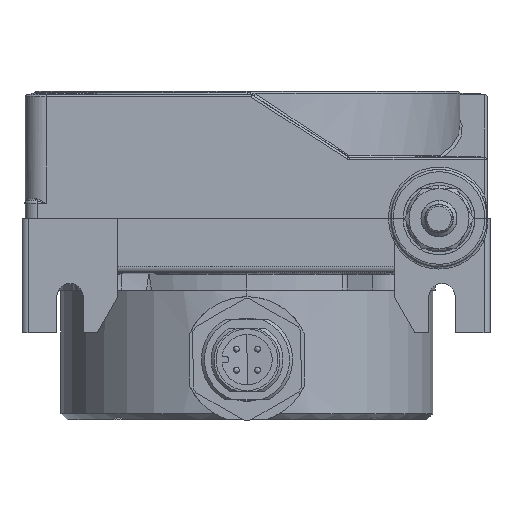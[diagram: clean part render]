
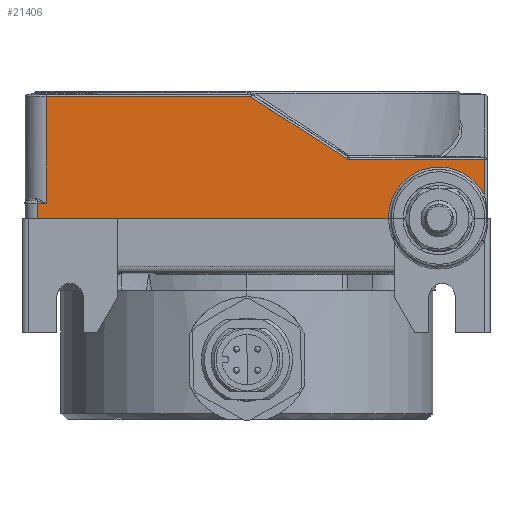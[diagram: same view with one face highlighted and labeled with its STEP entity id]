
A CAD part, left-side view. The second image highlights one B-rep face of the part: STEP entity #21406.
In plain terms, the highlighted planar face has unit normal (-1, 0, 0).
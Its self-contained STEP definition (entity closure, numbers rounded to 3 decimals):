
#1500 = EDGE_CURVE ( 'NONE', #42848, #30628, #45843, .T. ) ;
#1662 = CARTESIAN_POINT ( 'NONE',  ( -37., 35., 10. ) ) ;
#1740 = DIRECTION ( 'NONE',  ( 0., -0.84, -0.543 ) ) ;
#1949 = DIRECTION ( 'NONE',  ( 0., -1., 0. ) ) ;
#2776 = LINE ( 'NONE', #22209, #31222 ) ;
#2973 = DIRECTION ( 'NONE',  ( 0., 0., 1. ) ) ;
#3376 = ORIENTED_EDGE ( 'NONE', *, *, #16017, .F. ) ;
#3523 = EDGE_CURVE ( 'NONE', #16428, #34531, #25352, .T. ) ;
#3668 = EDGE_CURVE ( 'NONE', #25453, #31429, #12942, .T. ) ;
#4073 = LINE ( 'NONE', #42628, #31404 ) ;
#4352 = ORIENTED_EDGE ( 'NONE', *, *, #1500, .F. ) ;
#4382 = VERTEX_POINT ( 'NONE', #13638 ) ;
#4512 = DIRECTION ( 'NONE',  ( 0., 0., -1. ) ) ;
#5268 = VECTOR ( 'NONE', #4512, 1000. ) ;
#6285 = VECTOR ( 'NONE', #32925, 1000. ) ;
#6969 = VECTOR ( 'NONE', #1949, 1000. ) ;
#8556 = ORIENTED_EDGE ( 'NONE', *, *, #22130, .F. ) ;
#12942 = LINE ( 'NONE', #33693, #21362 ) ;
#12969 = CARTESIAN_POINT ( 'NONE',  ( -37., -16.684, 19.928 ) ) ;
#13396 = PLANE ( 'NONE',  #38132 ) ;
#13638 = CARTESIAN_POINT ( 'NONE',  ( -37., -0.655, 30.3 ) ) ;
#14527 = CARTESIAN_POINT ( 'NONE',  ( -37., -23.602, 10. ) ) ;
#14585 = EDGE_CURVE ( 'NONE', #30628, #25244, #2776, .T. ) ;
#15317 = VECTOR ( 'NONE', #1740, 1000. ) ;
#16017 = EDGE_CURVE ( 'NONE', #34531, #29459, #16093, .T. ) ;
#16093 = LINE ( 'NONE', #27940, #43469 ) ;
#16200 = EDGE_LOOP ( 'NONE', ( #4352, #22813, #31860, #27490, #22075, #8556, #3376, #37511, #36729, #16702 ) ) ;
#16428 = VERTEX_POINT ( 'NONE', #19934 ) ;
#16702 = ORIENTED_EDGE ( 'NONE', *, *, #14585, .F. ) ;
#17124 = CARTESIAN_POINT ( 'NONE',  ( -37., 33.5, 30.3 ) ) ;
#17154 = DIRECTION ( 'NONE',  ( 1., 0., 0. ) ) ;
#19934 = CARTESIAN_POINT ( 'NONE',  ( -37., 35., 12.6 ) ) ;
#20009 = CARTESIAN_POINT ( 'NONE',  ( -37., -16.814, 19.844 ) ) ;
#20164 = CARTESIAN_POINT ( 'NONE',  ( -37., -17.118, 19.8 ) ) ;
#21362 = VECTOR ( 'NONE', #37291, 1000. ) ;
#21406 = ADVANCED_FACE ( 'NONE', ( #43945 ), #13396, .F. ) ;
#22029 =( BOUNDED_CURVE ( )  B_SPLINE_CURVE ( 3, ( #12969, #20009, #41534, #20164 ),
 .UNSPECIFIED., .F., .F. ) 
 B_SPLINE_CURVE_WITH_KNOTS ( ( 4, 4 ),
 ( 0., 1. ),
 .UNSPECIFIED. ) 
 CURVE ( )  GEOMETRIC_REPRESENTATION_ITEM ( )  RATIONAL_B_SPLINE_CURVE ( ( 1., 0.973, 0.973, 1. ) ) 
 REPRESENTATION_ITEM ( '' )  );
#22075 = ORIENTED_EDGE ( 'NONE', *, *, #30921, .F. ) ;
#22130 = EDGE_CURVE ( 'NONE', #29459, #4382, #26026, .T. ) ;
#22209 = CARTESIAN_POINT ( 'NONE',  ( -37., -37., 10. ) ) ;
#22813 = ORIENTED_EDGE ( 'NONE', *, *, #23370, .F. ) ;
#23370 = EDGE_CURVE ( 'NONE', #31429, #42848, #33732, .T. ) ;
#24530 = CARTESIAN_POINT ( 'NONE',  ( -37., -39.6, 13.778 ) ) ;
#25244 = VERTEX_POINT ( 'NONE', #1662 ) ;
#25352 = LINE ( 'NONE', #36513, #6285 ) ;
#25453 = VERTEX_POINT ( 'NONE', #27693 ) ;
#26026 = LINE ( 'NONE', #44679, #6969 ) ;
#26710 = CARTESIAN_POINT ( 'NONE',  ( -37., -0.655, 30.3 ) ) ;
#27490 = ORIENTED_EDGE ( 'NONE', *, *, #43446, .F. ) ;
#27693 = CARTESIAN_POINT ( 'NONE',  ( -37., -17.118, 19.8 ) ) ;
#27940 = CARTESIAN_POINT ( 'NONE',  ( -37., 33.5, 31.2 ) ) ;
#29459 = VERTEX_POINT ( 'NONE', #17124 ) ;
#29856 = LINE ( 'NONE', #26710, #15317 ) ;
#30082 = CARTESIAN_POINT ( 'NONE',  ( -37., -39.6, 13.778 ) ) ;
#30628 = VERTEX_POINT ( 'NONE', #14527 ) ;
#30921 = EDGE_CURVE ( 'NONE', #4382, #31409, #29856, .T. ) ;
#31222 = VECTOR ( 'NONE', #33251, 1000. ) ;
#31404 = VECTOR ( 'NONE', #39081, 1000. ) ;
#31409 = VERTEX_POINT ( 'NONE', #40528 ) ;
#31429 = VERTEX_POINT ( 'NONE', #44561 ) ;
#31860 = ORIENTED_EDGE ( 'NONE', *, *, #3668, .F. ) ;
#32925 = DIRECTION ( 'NONE',  ( 0., -1., 0. ) ) ;
#33047 = CARTESIAN_POINT ( 'NONE',  ( -37., -39.6, 31.2 ) ) ;
#33251 = DIRECTION ( 'NONE',  ( 0., 1., 0. ) ) ;
#33693 = CARTESIAN_POINT ( 'NONE',  ( -37., -37., 19.8 ) ) ;
#33732 = LINE ( 'NONE', #33047, #5268 ) ;
#34531 = VERTEX_POINT ( 'NONE', #45557 ) ;
#36513 = CARTESIAN_POINT ( 'NONE',  ( -37., -37., 12.6 ) ) ;
#36729 = ORIENTED_EDGE ( 'NONE', *, *, #42128, .F. ) ;
#37291 = DIRECTION ( 'NONE',  ( 0., -1., 0. ) ) ;
#37511 = ORIENTED_EDGE ( 'NONE', *, *, #3523, .F. ) ;
#38132 = AXIS2_PLACEMENT_3D ( 'NONE', #38568, #17154, #42124 ) ;
#38568 = CARTESIAN_POINT ( 'NONE',  ( -37., -37., 31.2 ) ) ;
#38859 = CARTESIAN_POINT ( 'NONE',  ( -37., -23.325, 21.628 ) ) ;
#39081 = DIRECTION ( 'NONE',  ( 0., 0., 1. ) ) ;
#40528 = CARTESIAN_POINT ( 'NONE',  ( -37., -16.684, 19.928 ) ) ;
#41534 = CARTESIAN_POINT ( 'NONE',  ( -37., -16.963, 19.8 ) ) ;
#42124 = DIRECTION ( 'NONE',  ( 0., 0., -1. ) ) ;
#42128 = EDGE_CURVE ( 'NONE', #25244, #16428, #4073, .T. ) ;
#42415 = CARTESIAN_POINT ( 'NONE',  ( -37., -23.602, 10. ) ) ;
#42628 = CARTESIAN_POINT ( 'NONE',  ( -37., 35., 31.2 ) ) ;
#42848 = VERTEX_POINT ( 'NONE', #30082 ) ;
#43446 = EDGE_CURVE ( 'NONE', #31409, #25453, #22029, .T. ) ;
#43469 = VECTOR ( 'NONE', #2973, 1000. ) ;
#43945 = FACE_OUTER_BOUND ( 'NONE', #16200, .T. ) ;
#44561 = CARTESIAN_POINT ( 'NONE',  ( -37., -39.6, 19.8 ) ) ;
#44679 = CARTESIAN_POINT ( 'NONE',  ( -37., 35., 30.3 ) ) ;
#45557 = CARTESIAN_POINT ( 'NONE',  ( -37., 33.5, 12.6 ) ) ;
#45839 = CARTESIAN_POINT ( 'NONE',  ( -37., -34.646, 24.302 ) ) ;
#45843 =( BOUNDED_CURVE ( )  B_SPLINE_CURVE ( 3, ( #24530, #45839, #38859, #42415 ),
 .UNSPECIFIED., .F., .F. ) 
 B_SPLINE_CURVE_WITH_KNOTS ( ( 4, 4 ),
 ( 0., 1. ),
 .UNSPECIFIED. ) 
 CURVE ( )  GEOMETRIC_REPRESENTATION_ITEM ( )  RATIONAL_B_SPLINE_CURVE ( ( 1., 0.471, 0.471, 1. ) ) 
 REPRESENTATION_ITEM ( '' )  );
